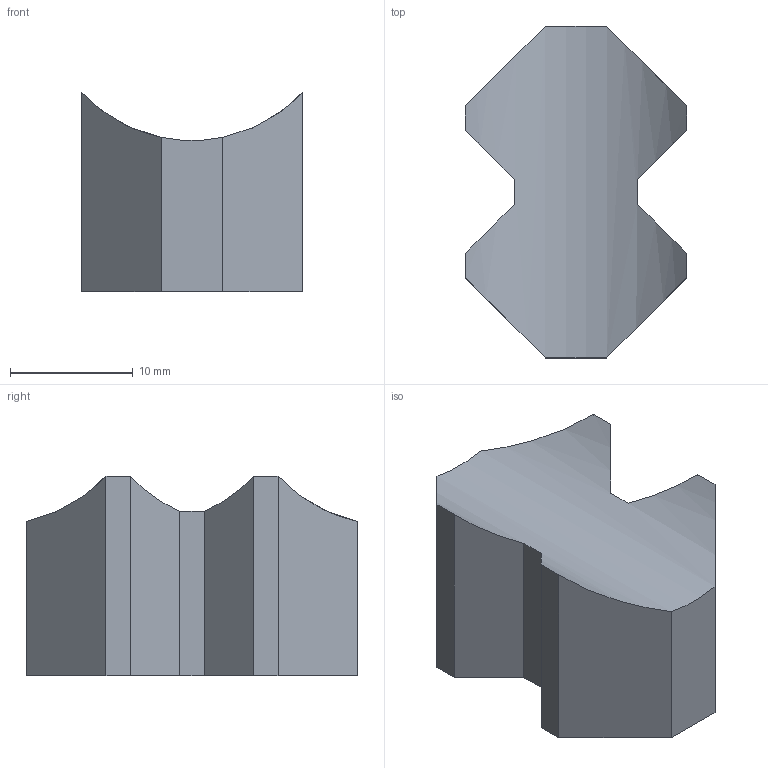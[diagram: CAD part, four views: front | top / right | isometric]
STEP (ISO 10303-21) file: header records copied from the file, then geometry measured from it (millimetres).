
FILE_DESCRIPTION (( 'STEP AP214' ), '1' );
FILE_NAME ('DS_v2B_Spojka.STEP', '2026-03-22T08:49:47', ( '' ), ( '' ), 'SwSTEP 2.0', 'SolidWorks 2026', '' );
FILE_SCHEMA (( 'AUTOMOTIVE_DESIGN' ));
Length unit declared in the file: millimetre
Products named in the file (1): DS_v2B_Spojka
Bounding box: 18 x 27 x 16.24 mm (x, y, z)
Volume: 4626.7 mm3; surface area: 1884.5 mm2
Topology: 1 solids, 1 shells, 18 faces, 48 edges, 32 vertices
Faces by surface type: plane 17, cylinder 1
Entity records: 577 total; most frequent: CARTESIAN_POINT 123, ORIENTED_EDGE 96, DIRECTION 80, EDGE_CURVE 48, VECTOR 38, LINE 38, VERTEX_POINT 32, AXIS2_PLACEMENT_3D 21
